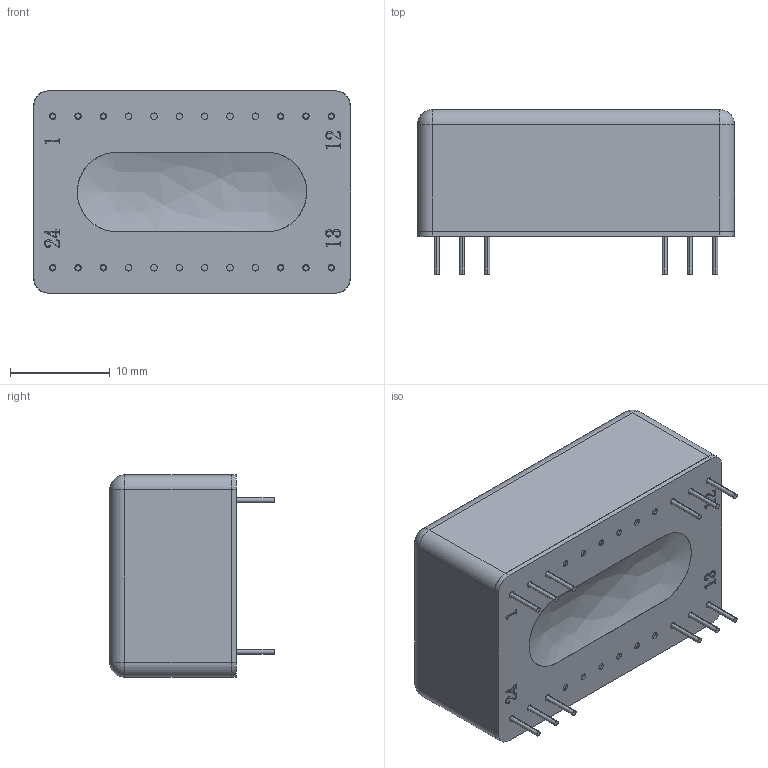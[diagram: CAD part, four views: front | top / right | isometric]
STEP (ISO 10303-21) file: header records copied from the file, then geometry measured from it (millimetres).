
FILE_DESCRIPTION (( 'STEP AP214' ), '1' );
FILE_NAME ('EC3AB.STEP', '2018-01-02T09:13:43', ( 'cincon' ), ( '' ), 'SwSTEP 2.0', 'SolidWorks 2008', '' );
FILE_SCHEMA (( 'AUTOMOTIVE_DESIGN' ));
Length unit declared in the file: millimetre
Products named in the file (4): EC3AB; EC3AE05M內部灌膠示意圖 100,08,12; CASE A示意圖G5100001000 100,08,12; EC3AE05M BASE 示意圖
Assembly tree (3 placements, depth 2):
  EC3AB
    EC3AE05M BASE 示意圖
    EC3AE05M內部灌膠示意圖 100,08,12
    CASE A示意圖G5100001000 100,08,12
Bounding box: 31.8 x 16.5 x 20.3 mm (x, y, z)
Volume: 6551.4 mm3; surface area: 6922.8 mm2
Topology: 3 solids, 3 shells, 456 faces, 1143 edges, 728 vertices
Faces by surface type: cylinder 156, plane 139, bspline 101, cone 48, sphere 12
Entity records: 17191 total; most frequent: CARTESIAN_POINT 6133, ORIENTED_EDGE 2262, DIRECTION 2001, EDGE_CURVE 1131, VERTEX_POINT 728, AXIS2_PLACEMENT_3D 723, VECTOR 555, LINE 555
